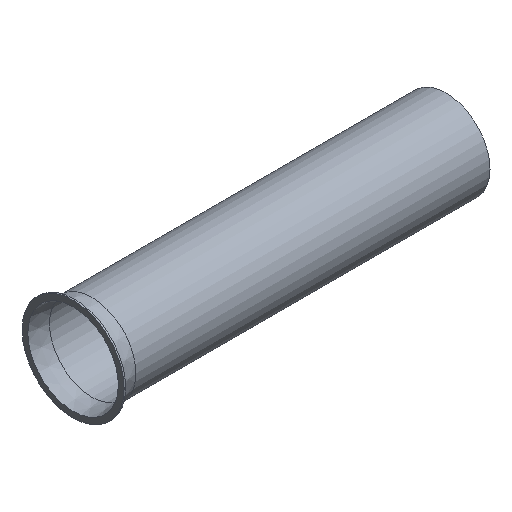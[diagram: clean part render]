
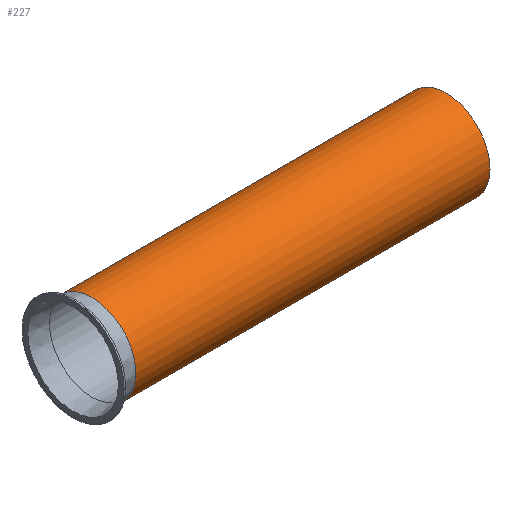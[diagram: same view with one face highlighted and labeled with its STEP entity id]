
A CAD part, isometric view. The second image highlights one B-rep face of the part: STEP entity #227.
In plain terms, the highlighted cylindrical face has radius 58 mm (diameter 116 mm), a full revolution.
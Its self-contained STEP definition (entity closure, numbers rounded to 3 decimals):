
#132=CARTESIAN_POINT('',(-2.081,46.334,0.0));
#133=VERTEX_POINT('',#132);
#134=CARTESIAN_POINT('',(-2.081,104.334,0.0));
#135=DIRECTION('',(-1.0,0.0,0.0));
#136=DIRECTION('',(0.0,-1.0,0.0));
#137=AXIS2_PLACEMENT_3D('',#134,#135,#136);
#138=CIRCLE('',#137,58.0);
#139=EDGE_CURVE('',#133,#133,#138,.T.);
#201=CARTESIAN_POINT('',(465.919,46.334,0.0));
#202=VERTEX_POINT('',#201);
#203=CARTESIAN_POINT('',(465.919,104.334,0.0));
#204=DIRECTION('',(-1.0,0.0,0.0));
#205=DIRECTION('',(0.0,-1.0,0.0));
#206=AXIS2_PLACEMENT_3D('',#203,#204,#205);
#207=CIRCLE('',#206,58.);
#208=EDGE_CURVE('',#202,#202,#207,.T.);
#216=CARTESIAN_POINT('',(231.919,104.334,0.0));
#217=DIRECTION('',(-1.0,0.,0.0));
#218=DIRECTION('',(0.0,-1.0,0.0));
#219=AXIS2_PLACEMENT_3D('',#216,#217,#218);
#220=CYLINDRICAL_SURFACE('',#219,58.);
#221=ORIENTED_EDGE('',*,*,#139,.F.);
#222=EDGE_LOOP('',(#221));
#223=FACE_OUTER_BOUND('',#222,.T.);
#224=ORIENTED_EDGE('',*,*,#208,.T.);
#225=EDGE_LOOP('',(#224));
#226=FACE_BOUND('',#225,.T.);
#227=ADVANCED_FACE('',(#223,#226),#220,.T.);
